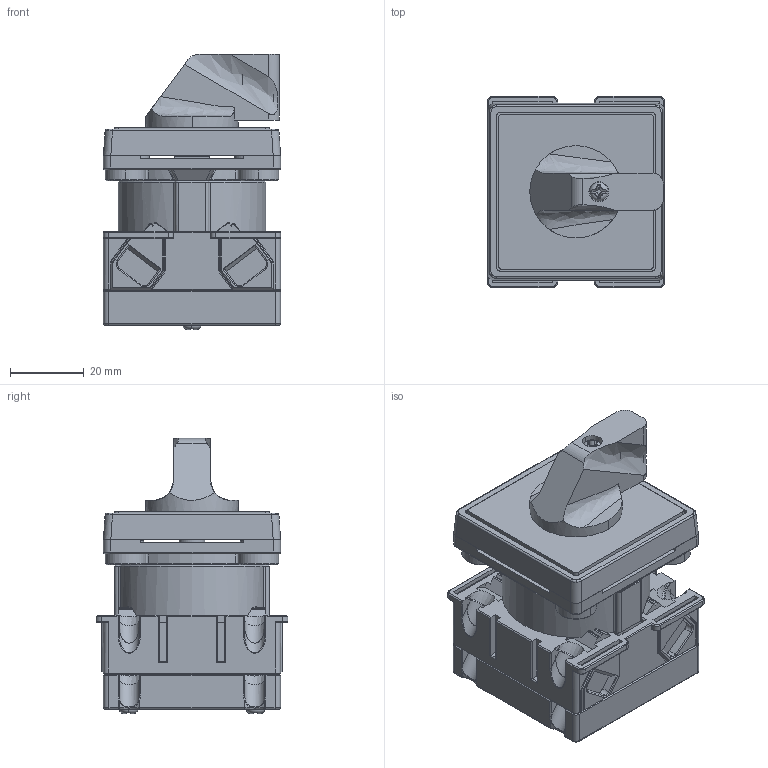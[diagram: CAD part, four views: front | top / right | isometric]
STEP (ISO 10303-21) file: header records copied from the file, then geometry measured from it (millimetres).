
FILE_DESCRIPTION (( 'STEP AP214' ), '1' );
FILE_NAME ('Ïåðåêëþ÷àòåëü 4G16, 25-XXXX-U-R114 ÃÆÈÊ.642212 1ê.STEP', '2024-07-31T08:10:15', ( '' ), ( '' ), 'SwSTEP 2.0', 'SolidWorks 2018', '' );
FILE_SCHEMA (( 'AUTOMOTIVE_DESIGN' ));
Length unit declared in the file: millimetre
Products named in the file (1): Ïåðåêëþ÷àòåëü 4G16, 25-XXXX-U-R114 ÃÆÈÊ.642212 1ê
Bounding box: 48 x 52 x 74.6 mm (x, y, z)
Volume: 84565.8 mm3; surface area: 54522.5 mm2
Topology: 15 solids, 23 shells, 2894 faces, 7629 edges, 4792 vertices
Faces by surface type: plane 1537, cylinder 957, torus 148, cone 111, bspline 77, sphere 64
Entity records: 148307 total; most frequent: CARTESIAN_POINT 46311, ORIENTED_EDGE 15140, DIRECTION 14157, EDGE_CURVE 7570, VECTOR 4811, LINE 4811, VERTEX_POINT 4780, AXIS2_PLACEMENT_3D 4673
